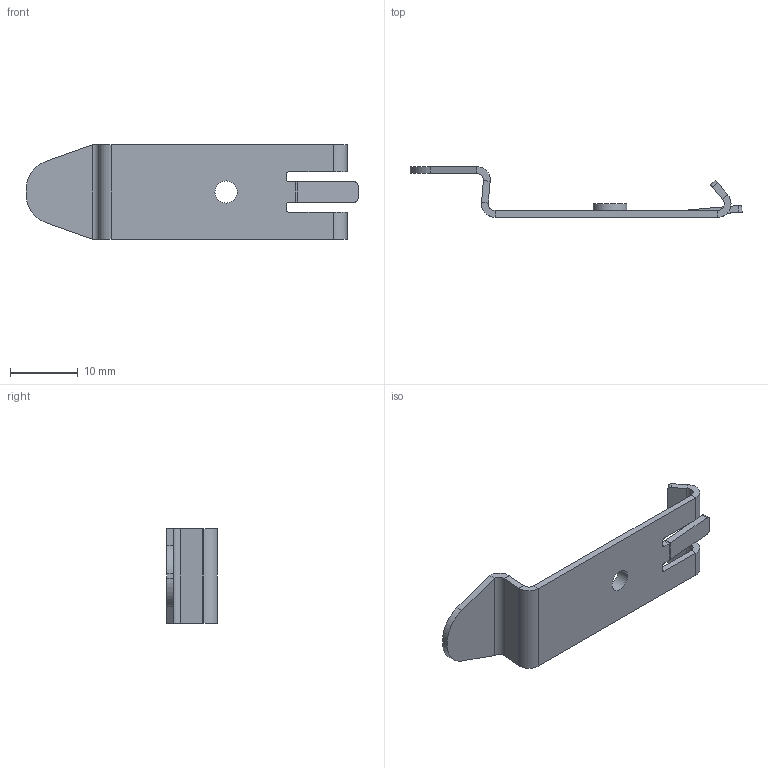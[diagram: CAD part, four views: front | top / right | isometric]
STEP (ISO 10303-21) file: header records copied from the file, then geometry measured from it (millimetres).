
FILE_DESCRIPTION (( 'STEP AP203' ), '1' );
FILE_NAME ('N 4 DR Ãàéêà äëÿ óñòàíîâêè íà DIN-ðåéêó.STEP', '2023-09-12T18:31:10', ( '' ), ( '' ), 'SwSTEP 2.0', 'SolidWorks 2022', '' );
FILE_SCHEMA (( 'CONFIG_CONTROL_DESIGN' ));
Length unit declared in the file: millimetre
Products named in the file (1): N 4 DR Гайка для установки на DIN-рейку
Bounding box: 49.09 x 7.5 x 14 mm (x, y, z)
Volume: 718 mm3; surface area: 1630.9 mm2
Topology: 1 solids, 1 shells, 73 faces, 170 edges, 100 vertices
Faces by surface type: plane 45, cylinder 28
Entity records: 2121 total; most frequent: DIRECTION 374, CARTESIAN_POINT 344, ORIENTED_EDGE 340, EDGE_CURVE 170, AXIS2_PLACEMENT_3D 130, LINE 114, VECTOR 114, VERTEX_POINT 100
